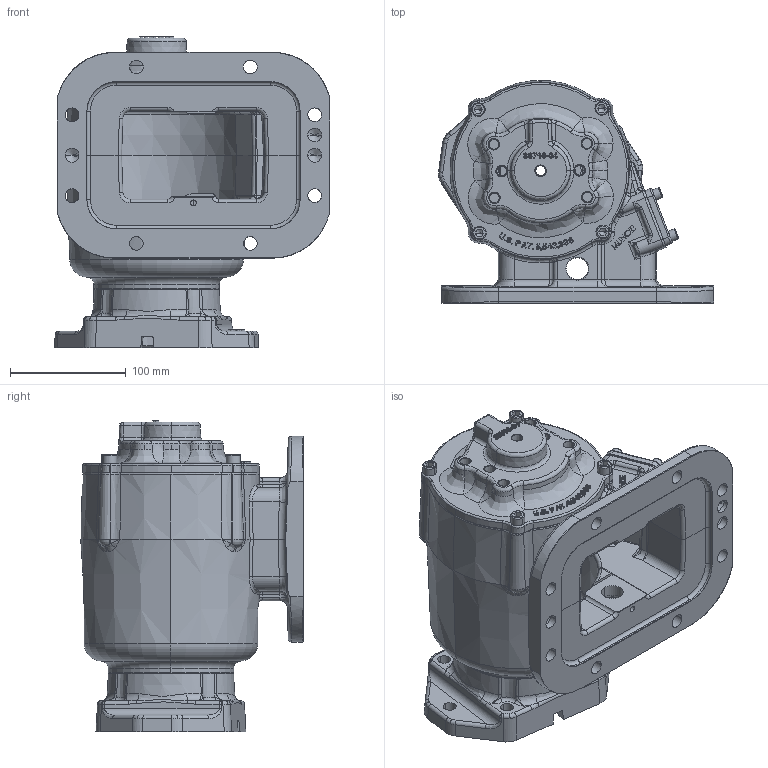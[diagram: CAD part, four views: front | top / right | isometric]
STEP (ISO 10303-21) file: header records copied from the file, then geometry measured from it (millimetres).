
FILE_DESCRIPTION (( 'STEP AP203' ), '1' );
FILE_NAME ('CS8S-XXXXX-E1PX.STEP', '2023-04-27T20:14:03', ( '' ), ( '' ), 'SwSTEP 2.0', 'SolidWorks 2021', '' );
FILE_SCHEMA (( 'CONFIG_CONTROL_DESIGN' ));
Length unit declared in the file: inch
Products named in the file (9): 16t34000; 01T42182_01T42182; CS8S-XXXXX-E1PX; 10T21017; 19T41118; 15T36717; 19T35237; 11T37790; 14T37779
Assembly tree (14 placements, depth 2):
  CS8S-XXXXX-E1PX
    16t34000
    14T37779
    15T36717
    01T42182_01T42182
    10T21017
    11T37790
    19T35237  x4
    19T41118  x4
Bounding box: 237.57 x 192.24 x 268.87 mm (x, y, z)
Volume: 1759198.2 mm3; surface area: 469495.6 mm2
Topology: 14 solids, 14 shells, 2255 faces, 5789 edges, 3574 vertices
Faces by surface type: bspline 797, plane 618, cylinder 430, cone 216, torus 166, sphere 28
Entity records: 102245 total; most frequent: CARTESIAN_POINT 55236, ORIENTED_EDGE 10746, DIRECTION 7687, EDGE_CURVE 5373, VERTEX_POINT 3361, AXIS2_PLACEMENT_3D 2766, EDGE_LOOP 2368, VECTOR 2155
